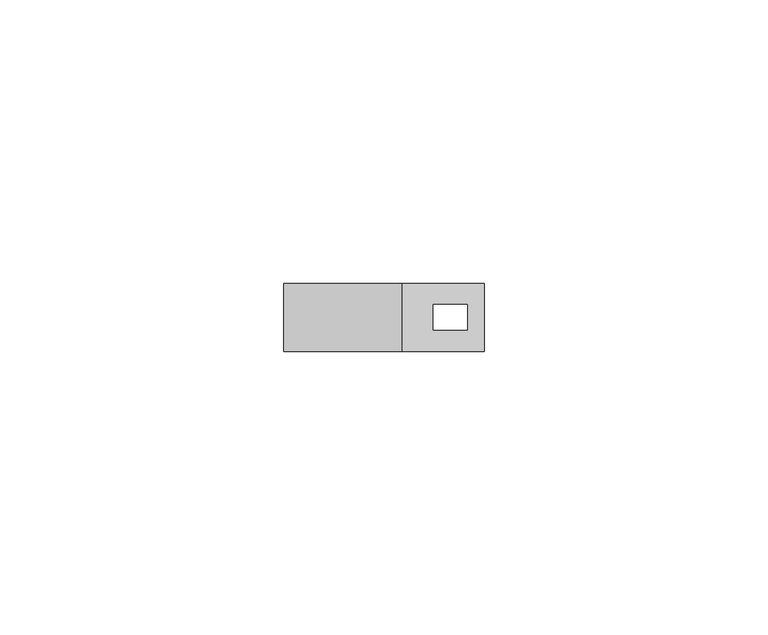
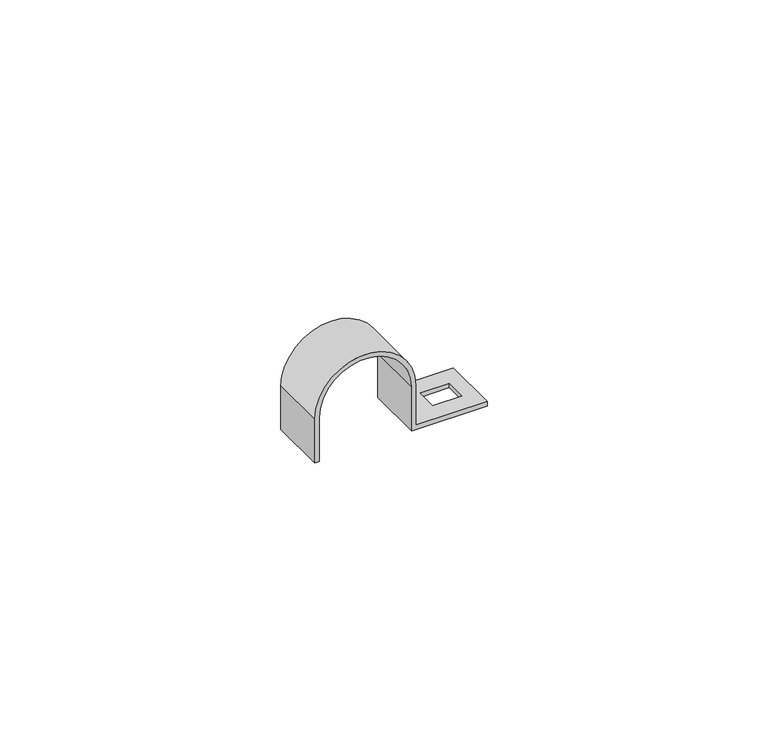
"""IFC4 building model written with IfcOpenShell, lengths in millimetres: cable carrier fitting geometry."""

import ifcopenshell
import ifcopenshell.guid

model = None  # the IFC model being written
_history = None  # IfcOwnerHistory: only IFC2X3 demands one
_inside = {}  # id of a spatial element -> (the spatial element, [elements in it])
_under = {}  # id of a project, library or spatial element -> (it, [spatial elements below it])
_declared = {}  # id of a project -> (the project, [libraries it declares])
_typed = {}  # id of a type object -> (the type object, [elements of that type])
_made_of = {}  # id of a material, layer set ... -> (it, [elements and type objects made of it])


def new_model(schema):
    """Start an empty IFC model of exactly this schema.

    Asked for "IFC4X3", IfcOpenShell would pick the latest addendum, in which some entities
    have other attributes; the version numbers below select the first issue.
    IFC2X3 requires an IfcOwnerHistory on every rooted entity: one is made here for all.
    """
    global model, _history
    if schema == "IFC4X3":
        model = ifcopenshell.file(schema_version=(4, 3, 0, 0))
    else:
        model = ifcopenshell.file(schema=schema)
    _inside.clear()
    _under.clear()
    _declared.clear()
    _typed.clear()
    _made_of.clear()
    _history = None
    if model.schema == "IFC2X3":
        org = make("IfcOrganization", Name="unknown")
        user = make(
            "IfcPersonAndOrganization",
            ThePerson=make("IfcPerson", FamilyName="unknown"),
            TheOrganization=org,
        )
        app = make(
            "IfcApplication",
            ApplicationDeveloper=org,
            Version="unknown",
            ApplicationFullName="unknown",
            ApplicationIdentifier="unknown",
        )
        _history = make(
            "IfcOwnerHistory",
            OwningUser=user,
            OwningApplication=app,
            ChangeAction="ADDED",
            CreationDate=0,
        )
    return model


def make(cls, **values):
    """One entity of the class cls with the attributes given. An attribute that is None is left unset."""
    return model.create_entity(
        cls, **{name: value for name, value in values.items() if value is not None}
    )


def rooted(cls, **values):
    """An entity with a GlobalId (a new one), such as an element, a storey or a relation."""
    return make(cls, GlobalId=ifcopenshell.guid.new(), OwnerHistory=_history, **values)


def si_unit(unit_type, name, prefix=None):
    """IfcSIUnit, for example si_unit("LENGTHUNIT", "METRE", prefix="MILLI")."""
    return make("IfcSIUnit", UnitType=unit_type, Prefix=prefix, Name=name)


def assignment(units):
    """IfcUnitAssignment: the units of a project."""
    return None if units is None else make("IfcUnitAssignment", Units=units)


def point(xyz):
    """IfcCartesianPoint."""
    return None if xyz is None else make("IfcCartesianPoint", Coordinates=xyz)


def direction(xyz):
    """IfcDirection."""
    return None if xyz is None else make("IfcDirection", DirectionRatios=xyz)


def frame(location, z_axis=None, x_axis=None):
    """IfcAxis2Placement3D, a coordinate frame: its origin and axes. An axis left out is left unset."""
    return make(
        "IfcAxis2Placement3D",
        Location=point(location),
        Axis=direction(z_axis),
        RefDirection=direction(x_axis),
    )


def origin():
    """The frame at (0, 0, 0) with its axes left unset."""
    return frame((0.0, 0.0, 0.0))


def place(relative_to, where):
    """IfcLocalPlacement: puts the frame where relative to a parent placement (None: the world)."""
    return make(
        "IfcLocalPlacement", PlacementRelTo=relative_to, RelativePlacement=where
    )


def context(
    kind, dimensions, precision=None, world=None, true_north=None, identifier=None
):
    """IfcGeometricRepresentationContext, for example the 3D "Model" context."""
    return make(
        "IfcGeometricRepresentationContext",
        ContextIdentifier=identifier,
        ContextType=kind,
        CoordinateSpaceDimension=dimensions,
        Precision=precision,
        WorldCoordinateSystem=world,
        TrueNorth=true_north,
    )


def project(units=None, contexts=None):
    """IfcProject with its units and contexts."""
    return rooted(
        "IfcProject",
        Name="project",
        RepresentationContexts=contexts,
        UnitsInContext=assignment(units),
    )


def spatial(cls, under=None, at=None, **own):
    """A site, building, storey or space (cls), placed at a placement, below another one or the project."""
    s = rooted(cls, ObjectPlacement=at, **own)
    if under is not None:
        _under.setdefault(under.id(), (under, []))[1].append(s)
    return s


def polyline(points):
    """IfcPolyline through the points."""
    return make("IfcPolyline", Points=[point(p) for p in points])


def circle_curve(where, radius):
    """IfcCircle in the frame where."""
    return make("IfcCircle", Position=where, Radius=radius)


def shape(context_of_items, identifier, shape_type, items):
    """IfcShapeRepresentation: the items that make up one representation, for example the "Body"."""
    return make(
        "IfcShapeRepresentation",
        ContextOfItems=context_of_items,
        RepresentationIdentifier=identifier,
        RepresentationType=shape_type,
        Items=items,
    )


def source(mapping_origin, context_of_items, identifier, shape_type, items):
    """IfcRepresentationMap: a shape defined once, which mapped items show again and again."""
    return make(
        "IfcRepresentationMap",
        MappingOrigin=mapping_origin,
        MappedRepresentation=shape(context_of_items, identifier, shape_type, items),
    )


def transform(
    local_origin,
    x_axis=None,
    y_axis=None,
    z_axis=None,
    scale=None,
    scale2=None,
    scale3=None,
    uniform=True,
):
    """IfcCartesianTransformationOperator3D, or its non-uniform kind. x_axis, y_axis, z_axis: its Axis1, 2, 3."""
    if uniform:
        return make(
            "IfcCartesianTransformationOperator3D",
            Axis1=direction(x_axis),
            Axis2=direction(y_axis),
            LocalOrigin=point(local_origin),
            Scale=scale,
            Axis3=direction(z_axis),
        )
    return make(
        "IfcCartesianTransformationOperator3DnonUniform",
        Axis1=direction(x_axis),
        Axis2=direction(y_axis),
        LocalOrigin=point(local_origin),
        Scale=scale,
        Axis3=direction(z_axis),
        Scale2=scale2,
        Scale3=scale3,
    )


def mapped(mapping_source, mapping_target):
    """IfcMappedItem: shows the shape of a source again, moved by a transform."""
    return make(
        "IfcMappedItem", MappingSource=mapping_source, MappingTarget=mapping_target
    )


def made_of(thing, what):
    """Note that an element or type object is made of a material, layer set ...; save() writes the relation."""
    if what is not None:
        _made_of.setdefault(what.id(), (what, []))[1].append(thing)
    return thing


def element(
    cls,
    number,
    at=None,
    inside=None,
    cuts=None,
    type_object=None,
    material=None,
    context=None,
    identifier="Body",
    shape_type=None,
    held_by="IfcProductDefinitionShape",
    body=None,
    shapes=None,
    **own,
):
    """One element of the class cls, such as IfcWall. Its Tag is "e" and its number.

    at: its placement. inside: the storey or other place that contains it. cuts: it is an
    opening in that element (IfcRelVoidsElement). A single representation is given by context,
    identifier, shape_type and body (its items); several are given by shapes. held_by: the class
    of the entity that holds the representations. save() writes the other relations.
    """
    e = rooted(cls, Tag="e%d" % number, ObjectPlacement=at, **own)
    if body is not None:
        shapes = [shape(context, identifier, shape_type, body)]
    if shapes is not None:
        e.Representation = make(held_by, Representations=shapes)
    if inside is not None:
        _inside.setdefault(inside.id(), (inside, []))[1].append(e)
    if cuts is not None:
        rooted(
            "IfcRelVoidsElement", RelatingBuildingElement=cuts, RelatedOpeningElement=e
        )
    if type_object is not None:
        _typed.setdefault(type_object.id(), (type_object, []))[1].append(e)
    return made_of(e, material)


def aggregate(whole, parts):
    """IfcRelAggregates: a whole, such as a stair, and the parts it consists of."""
    return rooted("IfcRelAggregates", RelatingObject=whole, RelatedObjects=parts)


def save(model, path):
    """Write the relations noted so far, then the file.

    IfcRelAggregates (storeys below a building ...), IfcRelContainedInSpatialStructure (elements
    in a storey), IfcRelDefinesByType, IfcRelAssociatesMaterial and IfcRelDeclares: one each for
    every whole, place, type object, material and project.
    """
    for whole, parts in _under.values():
        aggregate(whole, parts)
    for where, things in _inside.values():
        rooted(
            "IfcRelContainedInSpatialStructure",
            RelatedElements=things,
            RelatingStructure=where,
        )
    for kind, things in _typed.values():
        rooted("IfcRelDefinesByType", RelatedObjects=things, RelatingType=kind)
    for what, things in _made_of.values():
        rooted("IfcRelAssociatesMaterial", RelatedObjects=things, RelatingMaterial=what)
    for by, libraries in _declared.values():
        rooted("IfcRelDeclares", RelatingContext=by, RelatedDefinitions=libraries)
    model.write(path)


def plane_surface(at):
    """IfcPlane: the flat surface through the origin of the frame at, square to its z axis."""
    return make("IfcPlane", Position=at)


def cylinder_surface(at, radius):
    """IfcCylindricalSurface: all points at the distance radius from the z axis of the frame at."""
    return make("IfcCylindricalSurface", Position=at, Radius=radius)


def revolved_surface(curve, axis_point, axis_direction):
    """IfcSurfaceOfRevolution: the curve turned about the line through axis_point along axis_direction."""
    return make(
        "IfcSurfaceOfRevolution",
        SweptCurve=make("IfcArbitraryOpenProfileDef", ProfileType="CURVE", Curve=curve),
        AxisPosition=make("IfcAxis1Placement", Location=point(axis_point), Axis=direction(axis_direction)),
    )


def advanced_brep(points, edges, surfaces, faces):
    """IfcAdvancedBrep: a solid bounded by faces that lie on surfaces and meet in shared edges.

    An edge is (start, end): straight between two places in points (the first is 0);
    or (start, end, curve); or (start, end, curve, False) where it runs against its curve.
    A face is (place in surfaces, loops), or (place, loops, False) where it looks against
    its surface's normal. A loop lists edges by number (the first is 1), with a minus sign
    where the edge is run from its end to its start. The first loop is the outer one.
    """
    corners = [point(p) for p in points]
    vertices = [make("IfcVertexPoint", VertexGeometry=c) for c in corners]
    made = []
    for start, end, *more in edges:
        made.append(
            make(
                "IfcEdgeCurve",
                EdgeStart=vertices[start],
                EdgeEnd=vertices[end],
                EdgeGeometry=more[0] if more else make("IfcPolyline", Points=[corners[start], corners[end]]),
                SameSense=more[1] if len(more) > 1 else True,
            )
        )
    hull = []
    for where, loops, *sense in faces:
        bounds = []
        for j, loop in enumerate(loops):
            ring = [make("IfcOrientedEdge", EdgeElement=made[abs(k) - 1], Orientation=k > 0) for k in loop]
            bounds.append(
                make(
                    "IfcFaceOuterBound" if j == 0 else "IfcFaceBound",
                    Bound=make("IfcEdgeLoop", EdgeList=ring),
                    Orientation=True,
                )
            )
        hull.append(make("IfcAdvancedFace", Bounds=bounds, FaceSurface=surfaces[where], SameSense=sense[0] if sense else True))
    return make("IfcAdvancedBrep", Outer=make("IfcClosedShell", CfsFaces=hull))


def cable_carrier_fitting_ede0cdf9(model_context):
    return source(origin(), model_context, "Body", "AdvancedBrep", [
        advanced_brep(
        [(25.0, -6.0, 0.0), (25.0, -6.0, 0.9), (10.4, -6.0, 0.9), (10.4, -6.0, 9.5), (-10.4, -6.0, 9.5), (-10.4, -6.0, 0.0), (-9.5, -6.0, 0.0), (-9.5, -6.0, 9.5), (9.5, -6.0, 9.5), (9.5, -6.0, 0.0), (25.0, 6.0, 0.0), (9.5, 6.0, 0.0), (9.5, 6.0, 9.5), (-9.5, 6.0, 9.5), (-9.5, 6.0, 0.0), (-10.4, 6.0, 0.0), (-10.4, 6.0, 9.5), (10.4, 6.0, 9.5), (10.4, 6.0, 0.9), (25.0, 6.0, 0.9), (22.0, -2.25, 0.9), (16.0, -2.25, 0.9), (16.0, 2.25, 0.9), (22.0, 2.25, 0.9), (16.0, -2.25, 0.0), (22.0, -2.25, 0.0), (22.0, 2.25, 0.0), (16.0, 2.25, 0.0)],
        [
            (0, 1),
            (1, 2),
            (2, 3),
            (3, 4, circle_curve(frame((0.0, -6.0, 9.5), z_axis=(0.0, -1.0, 0.0), x_axis=(1.0, 0.0, 0.0)), 10.4)),
            (4, 5),
            (5, 6),
            (6, 7),
            (7, 8, circle_curve(frame((0.0, -6.0, 9.5), z_axis=(0.0, 1.0, 0.0), x_axis=(1.0, 0.0, 0.0)), 9.5)),
            (8, 9),
            (9, 0),
            (10, 11),
            (11, 12),
            (12, 13, circle_curve(frame((0.0, 6.0, 9.5), z_axis=(0.0, -1.0, 0.0), x_axis=(1.0, 0.0, 0.0)), 9.5)),
            (13, 14),
            (14, 15),
            (15, 16),
            (16, 17, circle_curve(frame((0.0, 6.0, 9.5), z_axis=(0.0, 1.0, 0.0), x_axis=(1.0, 0.0, 0.0)), 10.4)),
            (17, 18),
            (18, 19),
            (19, 10),
            (0, 10),
            (19, 1),
            (18, 2),
            (20, 21),
            (21, 22),
            (22, 23),
            (23, 20),
            (17, 3),
            (16, 4),
            (15, 5),
            (14, 6),
            (13, 7),
            (12, 8),
            (11, 9),
            (24, 25),
            (25, 26),
            (26, 27),
            (27, 24),
            (24, 21),
            (20, 25),
            (23, 26),
            (22, 27),
        ],
        [
            plane_surface(frame((25.0, -6.0, 0.9), z_axis=(0.0, -1.0, 0.0), x_axis=(0.0, 0.0, 1.0))),
            plane_surface(frame((25.0, 6.0, 0.9), z_axis=(0.0, 1.0, 0.0), x_axis=(0.0, 0.0, -1.0))),
            plane_surface(frame((25.0, -6.0, 0.0), z_axis=(1.0, 0.0, 0.0), x_axis=(0.0, 1.0, 0.0))),
            plane_surface(frame((25.0, -6.0, 0.9), z_axis=(0.0, 0.0, 1.0), x_axis=(0.0, 1.0, 0.0))),
            plane_surface(frame((10.4, -6.0, 0.9), z_axis=(1.0, 0.0, 0.0), x_axis=(0.0, 1.0, 0.0))),
            cylinder_surface(frame((0.0, 6.0, 9.5), z_axis=(0.0, -1.0, 0.0), x_axis=(1.0, 0.0, 0.0)), 10.4),
            plane_surface(frame((-10.4, -6.0, 9.5), z_axis=(-1.0, 0.0, 0.0), x_axis=(0.0, 1.0, 0.0))),
            plane_surface(frame((-10.4, -6.0, 0.0), z_axis=(0.0, 0.0, -1.0), x_axis=(0.0, 1.0, 0.0))),
            plane_surface(frame((-9.5, -6.0, 0.0), z_axis=(1.0, 0.0, 0.0), x_axis=(0.0, 1.0, 0.0))),
            revolved_surface(polyline([(9.5, 6.0, 9.5), (9.5, -6.0, 9.5)]), (0.0, 6.0, 9.5), (0.0, 1.0, 0.0)),
            plane_surface(frame((9.5, -6.0, 9.5), z_axis=(-1.0, 0.0, 0.0), x_axis=(0.0, 1.0, 0.0))),
            plane_surface(frame((9.5, -6.0, 0.0), z_axis=(0.0, 0.0, -1.0), x_axis=(0.0, 1.0, 0.0))),
            plane_surface(frame((16.0, -2.25, 21.959409), z_axis=(0.0, 1.0, 0.0), x_axis=(0.0, 0.0, -1.0))),
            plane_surface(frame((22.0, -2.25, 21.959409), z_axis=(-1.0, 0.0, 0.0), x_axis=(0.0, 0.0, -1.0))),
            plane_surface(frame((22.0, 2.25, 21.959409), z_axis=(0.0, -1.0, 0.0), x_axis=(0.0, 0.0, -1.0))),
            plane_surface(frame((16.0, 2.25, 21.959409), z_axis=(1.0, 0.0, 0.0), x_axis=(0.0, 0.0, -1.0))),
        ],
        [
            (0, [[1, 2, 3, 4, 5, 6, 7, 8, 9, 10]]),
            (1, [[11, 12, 13, 14, 15, 16, 17, 18, 19, 20]]),
            (2, [[-1, 21, -20, 22]]),
            (3, [[-2, -22, -19, 23], [24, 25, 26, 27]]),
            (4, [[-3, -23, -18, 28]]),
            (5, [[-4, -28, -17, 29]]),
            (6, [[-5, -29, -16, 30]]),
            (7, [[-6, -30, -15, 31]]),
            (8, [[-7, -31, -14, 32]]),
            (9, [[-8, -32, -13, 33]]),
            (10, [[-9, -33, -12, 34]]),
            (11, [[-10, -34, -11, -21], [35, 36, 37, 38]]),
            (12, [[39, -24, 40, -35]]),
            (13, [[-40, -27, 41, -36]]),
            (14, [[-41, -26, 42, -37]]),
            (15, [[-39, -38, -42, -25]]),
        ],
    ),
    ])


if __name__ == "__main__":
    model = new_model("IFC4")
    model_context = context("Model", 3, world=origin())
    ifc_project = project(units=[si_unit("LENGTHUNIT", "METRE", prefix="MILLI")], contexts=[model_context])
    site = spatial("IfcSite", under=ifc_project)
    building = spatial("IfcBuilding", under=site)
    placement = place(None, origin())
    cable_carrier_fitting_shape = cable_carrier_fitting_ede0cdf9(model_context)
    element("IfcCableCarrierFitting", 1, at=placement, inside=building, context=model_context, shape_type="MappedRepresentation", body=[
        mapped(cable_carrier_fitting_shape, transform((0.0, 0.0, 0.0), x_axis=(1.0, 0.0, 0.0), y_axis=(0.0, 1.0, 0.0), z_axis=(0.0, 0.0, 1.0))),
    ])
    save(model, "model.ifc")
